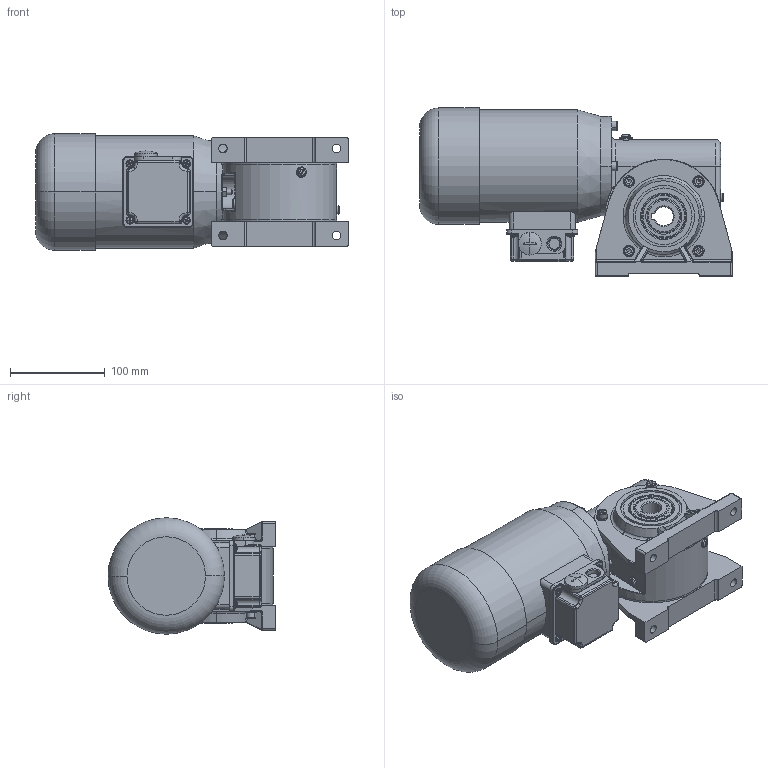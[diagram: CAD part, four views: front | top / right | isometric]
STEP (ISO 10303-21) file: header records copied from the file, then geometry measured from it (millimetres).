
FILE_DESCRIPTION (( 'STEP AP214' ), '1' );
FILE_NAME ('SN8SHH_180W_1400Upm_Drehstrom-Motor_B.STEP', '2021-09-21T12:56:16', ( '' ), ( '' ), 'SwSTEP 2.0', 'SolidWorks 2019', '' );
FILE_SCHEMA (( 'AUTOMOTIVE_DESIGN' ));
Length unit declared in the file: millimetre
Products named in the file (13): NBR_WDR_35x47x7; 08SHH-D-001_3D_Export; Kupferscheibe Ø6x12x1,5 DIN7603 A; slotted pan head screw_din_DIN EN ISO 1580 - M5 x 6 - 6C; SN8SHH_180W_1400Upm_Drehstrom-Motor_B; U-Seal Ring Ø5; 08-M-166 I 180W_1400Upm; socket head cap screw_din_DIN 912 M6 x 20 --- 20C; SN8SHH_3D_Export; socket set screw flat point_din_DIN 913 - M6 x 25-C; 08B-G-003_3D_Export; hex nut style 1 gradeab_din_Hexagon Nut ISO 4032 - M6 - D - C; 08FH-W-001_3D_Export
Assembly tree (37 placements, depth 3):
  SN8SHH_180W_1400Upm_Drehstrom-Motor_B
    SN8SHH_3D_Export
      08B-G-003_3D_Export
      08FH-W-001_3D_Export
      08SHH-D-001_3D_Export  x2
      NBR_WDR_35x47x7  x2
      socket head cap screw_din_DIN 912 M6 x 20 --- 20C  x11
      slotted pan head screw_din_DIN EN ISO 1580 - M5 x 6 - 6C  x4
      socket set screw flat point_din_DIN 913 - M6 x 25-C
      hex nut style 1 gradeab_din_Hexagon Nut ISO 4032 - M6 - D - C
      Kupferscheibe Ø6x12x1,5 DIN7603 A  x8
      U-Seal Ring Ø5  x4
    08-M-166 I 180W_1400Upm
Bounding box: 330.5 x 177.5 x 123 mm (x, y, z)
Volume: 3502532.6 mm3; surface area: 337238.1 mm2
Topology: 37 solids, 37 shells, 1333 faces, 3165 edges, 1934 vertices
Faces by surface type: cylinder 450, plane 406, torus 206, cone 189, bspline 58, sphere 24
Entity records: 28901 total; most frequent: CARTESIAN_POINT 8527, DIRECTION 4397, ORIENTED_EDGE 4020, EDGE_CURVE 2010, AXIS2_PLACEMENT_3D 1870, VERTEX_POINT 1259, CIRCLE 1048, EDGE_LOOP 901
